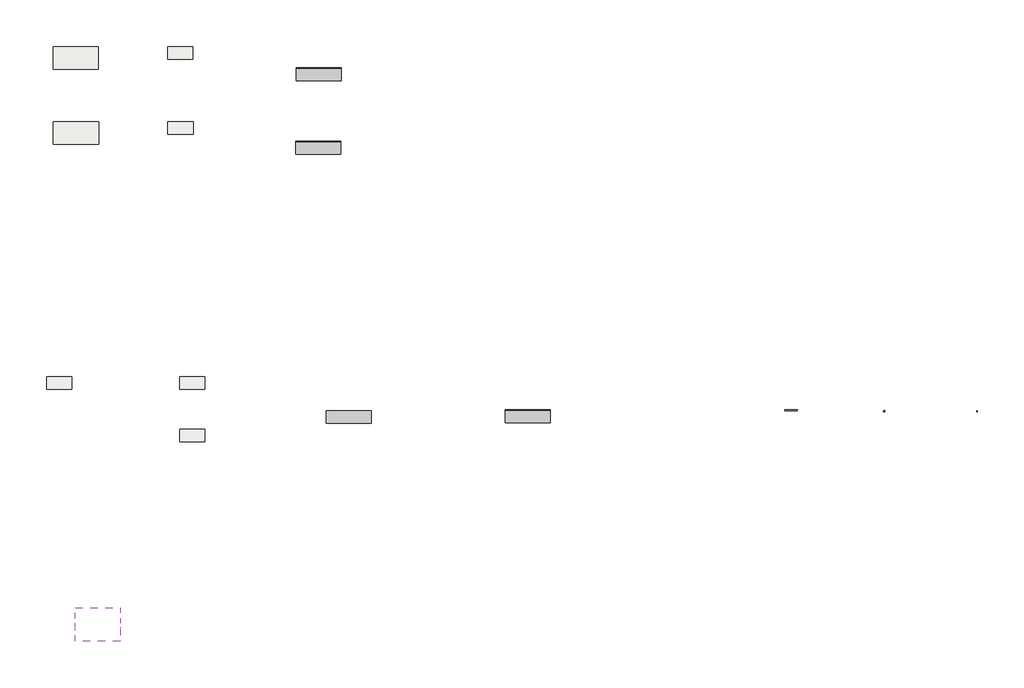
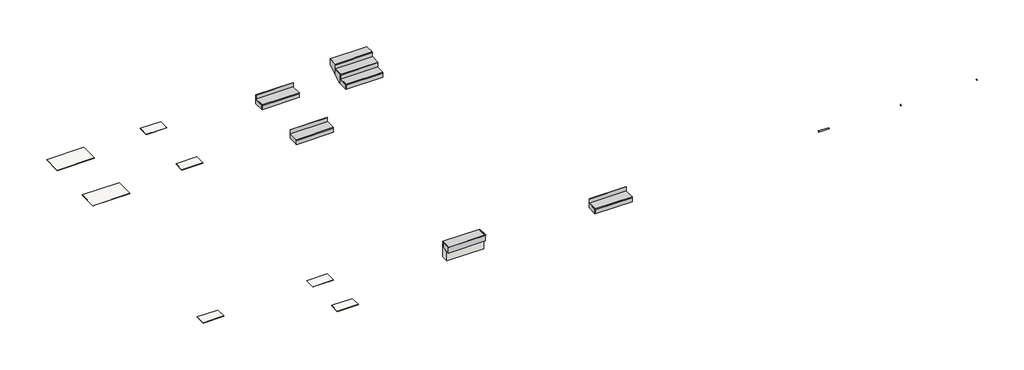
# One storey: 7 slabs, 5 proxies, 4 stair flights, 1 wall.
"""IFC4 building model written with IfcOpenShell, lengths in millimetres."""

from ifc_helpers import new_model, si_unit, frame, origin, place, context, project, spatial, polyline, outline, extrude, faceted_brep, transform, mapped, element, save
from components import generic_models_fe2e1876, generic_models_b0f7cce5, generic_models_d871d5da

model = new_model("IFC4")

# Units and contexts
model_context = context("Model", 3, world=origin())
ifc_project = project(units=[si_unit("LENGTHUNIT", "METRE", prefix="MILLI")], contexts=[model_context])

# Site, building, storey
site = spatial("IfcSite", under=ifc_project)
building = spatial("IfcBuilding", under=site)
storey = spatial("IfcBuildingStorey", under=building, Name="EXAGRES_Serie NUBIA_Catálogo", Elevation=22000.0)

# Proxies
placement = place(None, origin())
element("IfcBuildingElementProxy", 1, Name="Wall Sweeps", at=placement, inside=storey, context=model_context, shape_type="SweptSolid", body=[
    extrude(outline(polyline([(-8929.4280937, 22500.0), (-8929.4280937, 22508.0), (-8928.4280937, 22508.0), (-8928.4280937, 22514.0), (-8929.4280937, 22514.0), (-8929.4280937, 22521.0), (-8936.4280937, 22521.0), (-8936.4280937, 22522.0), (-8940.4280937, 22522.0), (-8940.4280937, 22521.0), (-8946.4280937, 22521.0), (-8946.4280937, 22522.0), (-8950.4280937, 22522.0), (-8950.4280937, 22521.0), (-8956.4280937, 22521.0), (-8956.4280937, 22522.0), (-8960.4280937, 22522.0), (-8960.4280937, 22521.0), (-8966.4280937, 22521.0), (-8966.4280937, 22522.0), (-8970.4280937, 22522.0), (-8970.4280937, 22521.0), (-8976.4280937, 22521.0), (-8976.4280937, 22522.0), (-8980.4280937, 22522.0), (-8980.4280937, 22521.0), (-8986.4280937, 22521.0), (-8986.4280937, 22522.0), (-8990.4280937, 22522.0), (-8990.4280937, 22521.0), (-8996.4280937, 22521.0), (-8996.4280937, 22522.0), (-9000.4280937, 22522.0), (-9000.4280937, 22521.0), (-9006.4280937, 22521.0), (-9006.4280937, 22522.0), (-9010.4280937, 22522.0), (-9010.4280937, 22521.0), (-9016.4280937, 22521.0), (-9016.4280937, 22522.0), (-9020.4280937, 22522.0), (-9020.4280937, 22521.0), (-9026.4280937, 22521.0), (-9026.4280937, 22522.0), (-9030.4280937, 22522.0), (-9030.4280937, 22521.0), (-9036.4280937, 22521.0), (-9036.4280937, 22522.0), (-9040.4280937, 22522.0), (-9040.4280937, 22521.0), (-9046.4280937, 22521.0), (-9046.4280937, 22522.0), (-9050.4280937, 22522.0), (-9050.4280937, 22521.0), (-9056.4280937, 22521.0), (-9056.4280937, 22522.0), (-9060.4280937, 22522.0), (-9060.4280937, 22521.0), (-9066.4280937, 22521.0), (-9066.4280937, 22522.0), (-9070.4280937, 22522.0), (-9070.4280937, 22521.0), (-9076.4280937, 22521.0), (-9076.4280937, 22522.0), (-9080.4280937, 22522.0), (-9080.4280937, 22521.0), (-9086.4280937, 22521.0), (-9086.4280937, 22522.0), (-9090.4280937, 22522.0), (-9090.4280937, 22521.0), (-9096.4280937, 22521.0), (-9096.4280937, 22522.0), (-9100.4280937, 22522.0), (-9100.4280937, 22521.0), (-9106.4280937, 22521.0), (-9106.4280937, 22522.0), (-9110.4280937, 22522.0), (-9110.4280937, 22521.0), (-9116.4280937, 22521.0), (-9116.4280937, 22522.0), (-9120.4280937, 22522.0), (-9120.4280937, 22521.0), (-9126.4280937, 22521.0), (-9126.4280937, 22522.0), (-9130.4280937, 22522.0), (-9130.4280937, 22521.0), (-9136.4280937, 22521.0), (-9136.4280937, 22522.0), (-9140.4280937, 22522.0), (-9140.4280937, 22521.0), (-9146.4280937, 22521.0), (-9146.4280937, 22522.0), (-9150.4280937, 22522.0), (-9150.4280937, 22521.0), (-9156.4280937, 22521.0), (-9156.4280937, 22522.0), (-9160.4280937, 22522.0), (-9160.4280937, 22521.0), (-9166.4280937, 22521.0), (-9166.4280937, 22522.0), (-9170.4280937, 22522.0), (-9170.4280937, 22521.0), (-9176.4280937, 22521.0), (-9176.4280937, 22522.0), (-9180.4280937, 22522.0), (-9180.4280937, 22521.0), (-9186.4280937, 22521.0), (-9186.4280937, 22522.0), (-9190.4280937, 22522.0), (-9190.4280937, 22521.0), (-9196.4280937, 22521.0), (-9196.4280937, 22522.0), (-9200.4280937, 22522.0), (-9200.4280937, 22521.0), (-9206.4280937, 22521.0), (-9206.4280937, 22522.0), (-9210.4280937, 22522.0), (-9210.4280937, 22521.0), (-9216.4280937, 22521.0), (-9216.4280937, 22522.0), (-9220.4280937, 22522.0), (-9220.4280937, 22521.0), (-9226.4280937, 22521.0), (-9226.4280937, 22522.0), (-9230.4280937, 22522.0), (-9230.4280937, 22521.0), (-9236.4280937, 22521.0), (-9236.4280937, 22522.0), (-9240.4280937, 22522.0), (-9240.4280937, 22521.0), (-9246.4280937, 22521.0), (-9246.4280937, 22533.0), (-8916.4280937, 22533.0), (-8916.4280937, 22500.0), (-8929.4280937, 22500.0)])), frame((6237.1741492, 0.0, 0.0), z_axis=(1.0, 0.0, 0.0), x_axis=(0.0, 1.0, 0.0)), (0.0, 0.0, 1.0), 1202.0),
])
element("IfcBuildingElementProxy", 2, Name="Wall Sweeps", at=placement, inside=storey, context=model_context, shape_type="Brep", body=[
    faceted_brep([(6237.1741492, -9236.4280937, 22318.74), (6237.1741492, -9236.4280937, 22518.74), (6237.1741492, -8931.4280937, 22518.74), (6237.1741492, -8931.4280937, 22500.0), (6237.1741492, -8931.4280937, 22318.74), (6237.1741492, -9141.4280937, 22318.74), (7439.1741492, -9236.4280937, 22318.74), (7439.1741492, -9141.4280937, 22318.74), (7439.1741492, -8931.4280937, 22318.74), (7439.1741492, -8931.4280937, 22500.0), (7439.1741492, -8931.4280937, 22518.74), (7439.1741492, -9236.4280937, 22518.74)], [[[0, 1, 2, 3, 4, 5]], [[6, 7, 8, 9, 10, 11]], [[0, 5, 4, 8, 7, 6]], [[4, 3, 2, 10, 9, 8]], [[2, 1, 11, 10]], [[1, 0, 6, 11]]]),
])
generic_models_shape = generic_models_fe2e1876(model_context)
element("IfcBuildingElementProxy", 3, Name="EXAGRES - Piscina Arista : Nubia_33x3cm", ObjectType="EXAGRES - Piscina Arista : Nubia_33x3cm", at=placement, inside=storey, context=model_context, shape_type="MappedRepresentation", body=[
    mapped(generic_models_shape, transform((18452.844275, -8916.4280937, 22030.0), x_axis=(1.0, 0.0, 0.0), y_axis=(0.0, 1.0, 0.0), z_axis=(0.0, 0.0, 1.0))),
])
generic_models_2_shape = generic_models_b0f7cce5(model_context)
element("IfcBuildingElementProxy", 4, Name="EXAGRES - Piscina Uña : Nubia_4x4cm", ObjectType="EXAGRES - Piscina Uña : Nubia_4x4cm", at=placement, inside=storey, context=model_context, shape_type="MappedRepresentation", body=[
    mapped(generic_models_2_shape, transform((21087.844275, -8916.4280937, 22000.0), x_axis=(1.0, 0.0, 0.0), y_axis=(0.0, 1.0, 0.0), z_axis=(0.0, 0.0, 1.0))),
])
generic_models_3_shape = generic_models_d871d5da(model_context)
element("IfcBuildingElementProxy", 5, Name="EXAGRES - Piscina Uña Arista : Nubia_3x3cm", ObjectType="EXAGRES - Piscina Uña Arista : Nubia_3x3cm", at=placement, inside=storey, context=model_context, shape_type="MappedRepresentation", body=[
    mapped(generic_models_3_shape, transform((23586.6602226, -8944.2306985, 22030.0), x_axis=(1.0, 0.0, 0.0), y_axis=(0.0, 1.0, 0.0), z_axis=(0.0, 0.0, 1.0))),
])

# Slabs
element("IfcSlab", 6, ObjectType="Exagres_Nubia_Base_60x120_C1_Rect", at=placement, inside=storey, context=model_context, shape_type="SweptSolid", body=[
    extrude(outline(polyline([(171.8218898, 784.4826442), (171.8218898, 182.4826442), (-1030.1781102, 182.4826442), (-1030.1781102, 784.4826442), (171.8218898, 784.4826442)])), frame((0.0, 0.0, 21990.0), z_axis=(0.0, 0.0, 1.0), x_axis=(1.0, 0.0, 0.0)), (0.0, 0.0, 1.0), 10.0),
])
element("IfcSlab", 7, ObjectType="Exagres_Nubia_Base_60x120_C3_Rect", at=placement, inside=storey, context=model_context, shape_type="SweptSolid", body=[
    extrude(outline(polyline([(174.8218898, -1215.5173558), (174.8218898, -1820.5173558), (-1030.1781102, -1820.5173558), (-1030.1781102, -1215.5173558), (174.8218898, -1215.5173558)])), frame((0.0, 0.0, 21990.0), z_axis=(0.0, 0.0, 1.0), x_axis=(1.0, 0.0, 0.0)), (0.0, 0.0, 1.0), 10.0),
])
element("IfcSlab", 8, ObjectType="Exagres_Nubia_Base_33x66,5_C1", at=placement, inside=storey, context=model_context, shape_type="SweptSolid", body=[
    extrude(outline(polyline([(2686.8218898, 784.4826442), (2686.8218898, 452.4826442), (2019.8218898, 452.4826442), (2019.8218898, 784.4826442), (2686.8218898, 784.4826442)])), frame((0.0, 0.0, 21990.0), z_axis=(0.0, 0.0, 1.0), x_axis=(1.0, 0.0, 0.0)), (0.0, 0.0, 1.0), 10.0),
])
element("IfcSlab", 9, ObjectType="Exagres_Nubia_Base_33x66,5_C3", at=placement, inside=storey, context=model_context, shape_type="SweptSolid", body=[
    extrude(outline(polyline([(2689.8218898, -1215.5173558), (2689.8218898, -1550.5173558), (2019.8218898, -1550.5173558), (2019.8218898, -1215.5173558), (2689.8218898, -1215.5173558)])), frame((0.0, 0.0, 21990.0), z_axis=(0.0, 0.0, 1.0), x_axis=(1.0, 0.0, 0.0)), (0.0, 0.0, 1.0), 10.0),
])
element("IfcSlab", 10, ObjectType="Exagres_Nubia_Piscina_33x66,5_C1", at=placement, inside=storey, context=model_context, shape_type="SweptSolid", body=[
    extrude(outline(polyline([(-545.155725, -8016.4280937), (-545.155725, -8348.4280937), (-1212.155725, -8348.4280937), (-1212.155725, -8016.4280937), (-545.155725, -8016.4280937)])), frame((0.0, 0.0, 21990.0), z_axis=(0.0, 0.0, 1.0), x_axis=(1.0, 0.0, 0.0)), (0.0, 0.0, 1.0), 10.0),
])
element("IfcSlab", 11, ObjectType="Exagres_Nubia_Piscina_33x66,5_C1", at=placement, inside=storey, context=model_context, shape_type="SweptSolid", body=[
    extrude(outline(polyline([(3004.844275, -8016.4280937), (3004.844275, -8348.4280937), (2337.844275, -8348.4280937), (2337.844275, -8016.4280937), (3004.844275, -8016.4280937)])), frame((0.0, 0.0, 21990.0), z_axis=(0.0, 0.0, 1.0), x_axis=(1.0, 0.0, 0.0)), (0.0, 0.0, 1.0), 10.0),
])
element("IfcSlab", 12, ObjectType="Exagres_Nubia_Piscina_33x66,5_C3", at=placement, inside=storey, context=model_context, shape_type="SweptSolid", body=[
    extrude(outline(polyline([(3004.844275, -9416.4280937), (3004.844275, -9748.4280937), (2337.844275, -9748.4280937), (2337.844275, -9416.4280937), (3004.844275, -9416.4280937)])), frame((0.0, 0.0, 21990.0), z_axis=(0.0, 0.0, 1.0), x_axis=(1.0, 0.0, 0.0)), (0.0, 0.0, 1.0), 10.0),
])

# Stair flights
element("IfcStairFlight", 13, ObjectType="EXAGRES_Recto - Nubia C1", at=placement, inside=storey, context=model_context, shape_type="SolidModel", body=[
    faceted_brep([(-451.9029047, -14746.6587674, 33972.3684211), (-451.9029047, -15046.6587674, 33972.3684211), (748.0970953, -15046.6587674, 33972.3684211), (748.0970953, -14746.6587674, 33972.3684211), (-451.9029047, -14746.6587674, 33820.0), (-451.9029047, -15046.6587674, 33820.0), (748.0970953, -15046.6587674, 33820.0), (748.0970953, -14746.6587674, 33820.0), (-451.9029047, -14446.6587674, 34139.7368421), (-451.9029047, -14746.6587674, 34139.7368421), (748.0970953, -14746.6587674, 34139.7368421), (748.0970953, -14446.6587674, 34139.7368421), (-451.9029047, -14446.6587674, 33956.5213642), (-451.9029047, -14691.3668729, 33820.0), (748.0970953, -14691.3668729, 33820.0), (748.0970953, -14446.6587674, 33956.5213642), (-451.9029047, -14161.6587674, 34115.5213642), (748.0970953, -14161.6587674, 34115.5213642), (-451.9029047, -14161.6587674, 34307.1052632), (-451.9029047, -14446.6587674, 34307.1052632), (748.0970953, -14446.6587674, 34307.1052632), (748.0970953, -14161.6587674, 34307.1052632)], [[[0, 1, 2, 3]], [[1, 0, 4, 5]], [[2, 1, 5, 6]], [[3, 2, 6, 7]], [[8, 9, 10, 11]], [[4, 0, 9, 8, 12, 13]], [[0, 3, 10, 9]], [[3, 7, 14, 15, 11, 10]], [[5, 4, 13, 14, 7, 6]], [[14, 13, 12, 16, 17, 15]], [[18, 19, 20, 21]], [[19, 18, 16, 12, 8]], [[8, 11, 20, 19]], [[21, 20, 11, 15, 17]], [[18, 21, 17, 16]]]),
    extrude(outline(polyline([(-14746.6587674, 33972.3684211), (-15043.7492185, 33972.3684211), (-15043.7492185, 33975.3684211), (-15048.6587674, 33975.3684211), (-15048.6587674, 33968.3684211), (-15049.6587674, 33968.3684211), (-15049.6587674, 33962.3684211), (-15048.6587674, 33962.3684211), (-15048.6587674, 33954.3684211), (-15061.6587674, 33954.3684211), (-15061.6587674, 33987.3684211), (-14746.6587674, 33987.3684211), (-14746.6587674, 33972.3684211)])), frame((-451.9029047, 0.0, 0.0), z_axis=(1.0, 0.0, 0.0), x_axis=(0.0, 1.0, 0.0)), (0.0, 0.0, 1.0), 1200.0),
    extrude(outline(polyline([(748.0970953, -15046.6587674), (748.0970953, -15061.6587674), (-451.9029047, -15061.6587674), (-451.9029047, -15046.6587674), (748.0970953, -15046.6587674)])), frame((0.0, 0.0, 33820.0), z_axis=(0.0, 0.0, 1.0), x_axis=(1.0, 0.0, 0.0)), (0.0, 0.0, 1.0), 134.3684211),
    extrude(outline(polyline([(748.0970953, -14746.6587674), (748.0970953, -14761.6587674), (-451.9029047, -14761.6587674), (-451.9029047, -14746.6587674), (748.0970953, -14746.6587674)])), frame((0.0, 0.0, 33987.3684211), z_axis=(0.0, 0.0, 1.0), x_axis=(1.0, 0.0, 0.0)), (0.0, 0.0, 1.0), 134.3684211),
    extrude(outline(polyline([(-14446.6587674, 34139.7368421), (-14743.7492185, 34139.7368421), (-14743.7492185, 34142.7368421), (-14748.6587674, 34142.7368421), (-14748.6587674, 34135.7368421), (-14749.6587674, 34135.7368421), (-14749.6587674, 34129.7368421), (-14748.6587674, 34129.7368421), (-14748.6587674, 34121.7368421), (-14761.6587674, 34121.7368421), (-14761.6587674, 34154.7368421), (-14446.6587674, 34154.7368421), (-14446.6587674, 34139.7368421)])), frame((-451.9029047, 0.0, 0.0), z_axis=(1.0, 0.0, 0.0), x_axis=(0.0, 1.0, 0.0)), (0.0, 0.0, 1.0), 1200.0),
    extrude(outline(polyline([(748.0970953, -14446.6587674), (748.0970953, -14461.6587674), (-451.9029047, -14461.6587674), (-451.9029047, -14446.6587674), (748.0970953, -14446.6587674)])), frame((0.0, 0.0, 34154.7368421), z_axis=(0.0, 0.0, 1.0), x_axis=(1.0, 0.0, 0.0)), (0.0, 0.0, 1.0), 134.3684211),
    extrude(outline(polyline([(-14161.6587674, 34307.1052632), (-14443.7492185, 34307.1052632), (-14443.7492185, 34310.1052632), (-14448.6587674, 34310.1052632), (-14448.6587674, 34303.1052632), (-14449.6587674, 34303.1052632), (-14449.6587674, 34297.1052632), (-14448.6587674, 34297.1052632), (-14448.6587674, 34289.1052632), (-14461.6587674, 34289.1052632), (-14461.6587674, 34322.1052632), (-14161.6587674, 34322.1052632), (-14161.6587674, 34307.1052632)])), frame((-451.9029047, 0.0, 0.0), z_axis=(1.0, 0.0, 0.0), x_axis=(0.0, 1.0, 0.0)), (0.0, 0.0, 1.0), 1200.0),
])
element("IfcStairFlight", 14, ObjectType="EXAGRES_Recto - Nubia C3", at=placement, inside=storey, context=model_context, shape_type="SweptSolid", body=[
    extrude(outline(polyline([(5423.0707994, -2072.5173558), (5423.0707994, -1742.5173558), (6623.0707994, -1742.5173558), (6623.0707994, -2072.5173558), (5423.0707994, -2072.5173558)])), frame((0.0, 0.0, 22000.0), z_axis=(0.0, 0.0, 1.0), x_axis=(1.0, 0.0, 0.0)), (0.0, 0.0, 1.0), 151.6666667),
    extrude(outline(polyline([(-1742.5173558, 22151.6666667), (-2069.6078069, 22151.6666667), (-2069.6078069, 22154.6666667), (-2074.5173558, 22154.6666667), (-2074.5173558, 22147.6666667), (-2075.5173558, 22147.6666667), (-2075.5173558, 22141.6666667), (-2074.5173558, 22141.6666667), (-2074.5173558, 22133.6666667), (-2087.5173558, 22133.6666667), (-2087.5173558, 22166.6666667), (-1742.5173558, 22166.6666667), (-1742.5173558, 22151.6666667)])), frame((5423.0707994, 0.0, 0.0), z_axis=(1.0, 0.0, 0.0), x_axis=(0.0, 1.0, 0.0)), (0.0, 0.0, 1.0), 1200.0),
    extrude(outline(polyline([(6623.0707994, -2072.5173558), (6623.0707994, -2087.5173558), (5423.0707994, -2087.5173558), (5423.0707994, -2072.5173558), (6623.0707994, -2072.5173558)])), frame((0.0, 0.0, 22000.0), z_axis=(0.0, 0.0, 1.0), x_axis=(1.0, 0.0, 0.0)), (0.0, 0.0, 1.0), 133.6666667),
    extrude(outline(polyline([(6623.0707994, -1742.5173558), (6623.0707994, -1757.5173558), (5423.0707994, -1757.5173558), (5423.0707994, -1742.5173558), (6623.0707994, -1742.5173558)])), frame((0.0, 0.0, 22166.6666667), z_axis=(0.0, 0.0, 1.0), x_axis=(1.0, 0.0, 0.0)), (0.0, 0.0, 1.0), 133.6666667),
])
element("IfcStairFlight", 15, ObjectType="EXAGRES_Recto - Nubia C1", at=placement, inside=storey, context=model_context, shape_type="SweptSolid", body=[
    extrude(outline(polyline([(5443.0707994, -112.5173558), (5443.0707994, 217.4826442), (6643.0707994, 217.4826442), (6643.0707994, -112.5173558), (5443.0707994, -112.5173558)])), frame((0.0, 0.0, 22000.0), z_axis=(0.0, 0.0, 1.0), x_axis=(1.0, 0.0, 0.0)), (0.0, 0.0, 1.0), 151.6666667),
    extrude(outline(polyline([(217.4826442, 22151.6666667), (-109.6078069, 22151.6666667), (-109.6078069, 22154.6666667), (-114.5173558, 22154.6666667), (-114.5173558, 22147.6666667), (-115.5173558, 22147.6666667), (-115.5173558, 22141.6666667), (-114.5173558, 22141.6666667), (-114.5173558, 22133.6666667), (-127.5173558, 22133.6666667), (-127.5173558, 22166.6666667), (217.4826442, 22166.6666667), (217.4826442, 22151.6666667)])), frame((5443.0707994, 0.0, 0.0), z_axis=(1.0, 0.0, 0.0), x_axis=(0.0, 1.0, 0.0)), (0.0, 0.0, 1.0), 1200.0),
    extrude(outline(polyline([(6643.0707994, -112.5173558), (6643.0707994, -127.5173558), (5443.0707994, -127.5173558), (5443.0707994, -112.5173558), (6643.0707994, -112.5173558)])), frame((0.0, 0.0, 22000.0), z_axis=(0.0, 0.0, 1.0), x_axis=(1.0, 0.0, 0.0)), (0.0, 0.0, 1.0), 133.6666667),
    extrude(outline(polyline([(6643.0707994, 217.4826442), (6643.0707994, 202.4826442), (5443.0707994, 202.4826442), (5443.0707994, 217.4826442), (6643.0707994, 217.4826442)])), frame((0.0, 0.0, 22166.6666667), z_axis=(0.0, 0.0, 1.0), x_axis=(1.0, 0.0, 0.0)), (0.0, 0.0, 1.0), 133.6666667),
])
element("IfcStairFlight", 16, ObjectType="EXAGRES_Recto - Nubia C3", at=placement, inside=storey, context=model_context, shape_type="SweptSolid", body=[
    extrude(outline(polyline([(11002.2937791, -9220.2865738), (11002.2937791, -8890.2865738), (12202.2937791, -8890.2865738), (12202.2937791, -9220.2865738), (11002.2937791, -9220.2865738)])), frame((0.0, 0.0, 22000.0), z_axis=(0.0, 0.0, 1.0), x_axis=(1.0, 0.0, 0.0)), (0.0, 0.0, 1.0), 154.4915254),
    extrude(outline(polyline([(-8890.2865738, 22154.4915254), (-9217.3770249, 22154.4915254), (-9217.3770249, 22157.4915254), (-9222.2865738, 22157.4915254), (-9222.2865738, 22150.4915254), (-9223.2865738, 22150.4915254), (-9223.2865738, 22144.4915254), (-9222.2865738, 22144.4915254), (-9222.2865738, 22136.4915254), (-9235.2865738, 22136.4915254), (-9235.2865738, 22169.4915254), (-8890.2865738, 22169.4915254), (-8890.2865738, 22154.4915254)])), frame((11002.2937791, 0.0, 0.0), z_axis=(1.0, 0.0, 0.0), x_axis=(0.0, 1.0, 0.0)), (0.0, 0.0, 1.0), 1200.0),
    extrude(outline(polyline([(12202.2937791, -9220.2865738), (12202.2937791, -9235.2865738), (11002.2937791, -9235.2865738), (11002.2937791, -9220.2865738), (12202.2937791, -9220.2865738)])), frame((0.0, 0.0, 22000.0), z_axis=(0.0, 0.0, 1.0), x_axis=(1.0, 0.0, 0.0)), (0.0, 0.0, 1.0), 136.4915254),
    extrude(outline(polyline([(12202.2937791, -8890.2865738), (12202.2937791, -8905.2865738), (11002.2937791, -8905.2865738), (11002.2937791, -8890.2865738), (12202.2937791, -8890.2865738)])), frame((0.0, 0.0, 22169.4915254), z_axis=(0.0, 0.0, 1.0), x_axis=(1.0, 0.0, 0.0)), (0.0, 0.0, 1.0), 136.4915254),
])

# Wall
element("IfcWall", 17, ObjectType="Exagres_Piscina Skimmer - Peldaño 33x120 - Nubia", at=placement, inside=storey, context=model_context, shape_type="Brep", body=[
    faceted_brep([(6237.1741492, -9141.4280937, 22000.0), (7439.1741492, -9141.4280937, 22000.0), (7439.1741492, -9141.4280937, 22318.74), (6237.1741492, -9141.4280937, 22318.74), (7439.1741492, -8916.4280937, 22000.0), (6237.1741492, -8916.4280937, 22000.0), (6237.1741492, -8916.4280937, 22500.0), (7439.1741492, -8916.4280937, 22500.0), (7439.1741492, -8929.4280937, 22500.0), (7439.1741492, -8931.4280937, 22500.0), (7439.1741492, -8931.4280937, 22318.74), (6237.1741492, -8929.4280937, 22500.0), (6237.1741492, -8931.4280937, 22500.0), (6237.1741492, -8931.4280937, 22318.74)], [[[0, 1, 2, 3]], [[4, 5, 6, 7]], [[1, 0, 5, 4]], [[4, 7, 8, 9, 10, 2, 1]], [[7, 6, 11, 12, 9, 8]], [[6, 5, 0, 3, 13, 12, 11]], [[10, 13, 3, 2]], [[13, 10, 9, 12]]]),
])

save(model, "model.ifc")
